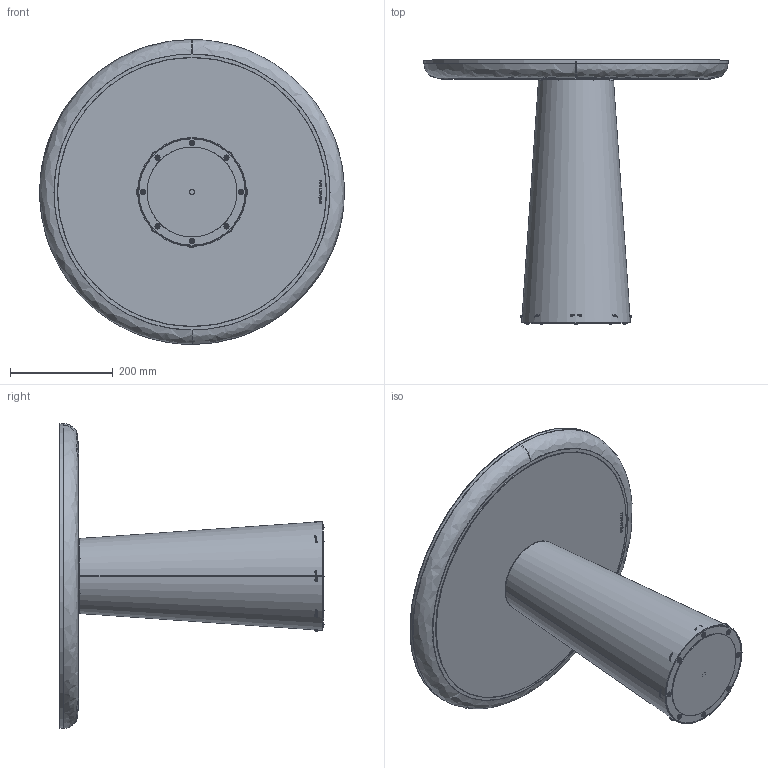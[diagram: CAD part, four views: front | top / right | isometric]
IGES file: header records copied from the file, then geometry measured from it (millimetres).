
Start section: SolidWorks IGES file using analytic representation for surfaces
Global section: file name: \\192.168.0.53\Reserch Development\SITO WEB\2024\FFG26A~6\Prodotti\3D\De Castelli - 3D - Sunset.IGS; native system: SolidWorks 2025; preprocessor: SolidWorks 2025; author: lauraa; date: 260202.110530; units: millimetre
Bounding box: 594 x 514.5 x 594 mm (x, y, z)
Surface area: 1445933.9 mm2 (no closed solid volume)
Topology: 0 solids, 0 shells, 244 faces, 3027 edges, 3019 vertices
Faces by surface type: bspline 138, revolution 106
